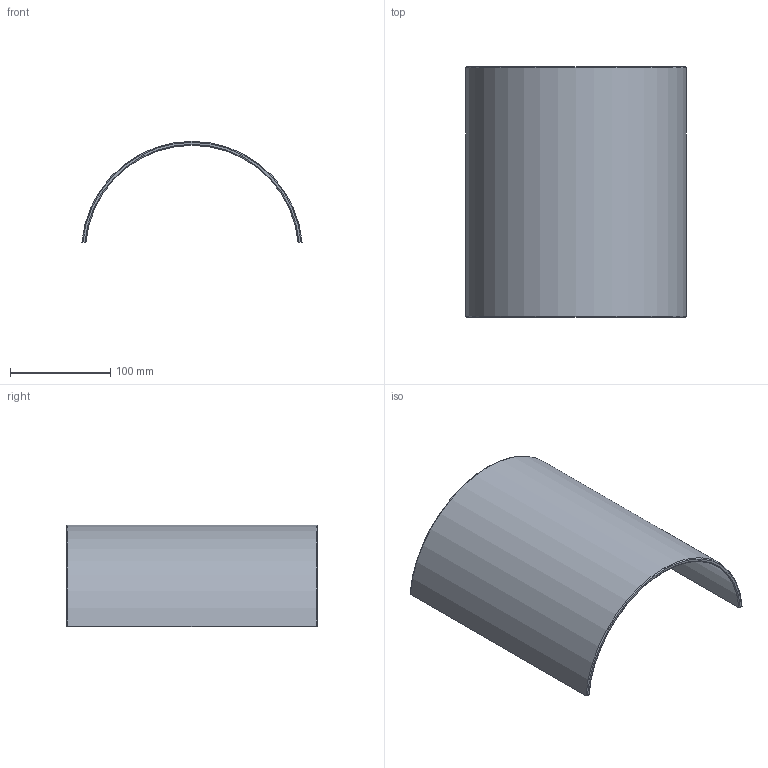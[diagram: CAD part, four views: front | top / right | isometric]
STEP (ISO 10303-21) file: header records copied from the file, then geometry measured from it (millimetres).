
FILE_DESCRIPTION (( 'STEP AP203' ), '1' );
FILE_NAME ('WL.C22.00.STEP', '2026-03-02T11:08:38', ( '' ), ( '' ), 'SwSTEP 2.0', 'SolidWorks 2013', '' );
FILE_SCHEMA (( 'CONFIG_CONTROL_DESIGN' ));
Length unit declared in the file: millimetre
Products named in the file (1): WL.C22.00
Bounding box: 220 x 250 x 101.18 mm (x, y, z)
Volume: 321481.6 mm3; surface area: 164898.8 mm2
Topology: 1 solids, 1 shells, 14 faces, 36 edges, 24 vertices
Faces by surface type: torus 8, plane 4, cylinder 2
Entity records: 525 total; most frequent: DIRECTION 94, CARTESIAN_POINT 75, ORIENTED_EDGE 72, AXIS2_PLACEMENT_3D 43, EDGE_CURVE 36, CIRCLE 28, VERTEX_POINT 24, EDGE_LOOP 14
